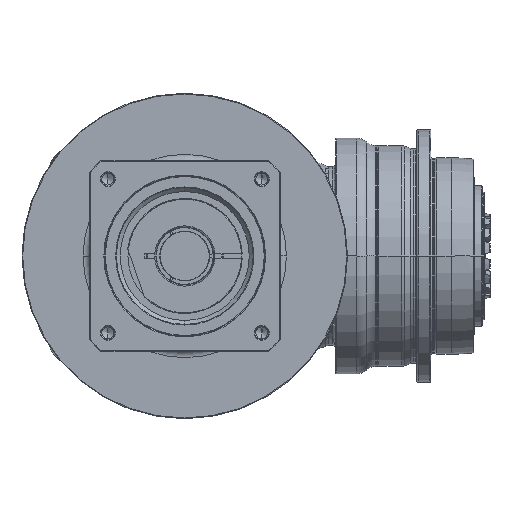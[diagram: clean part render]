
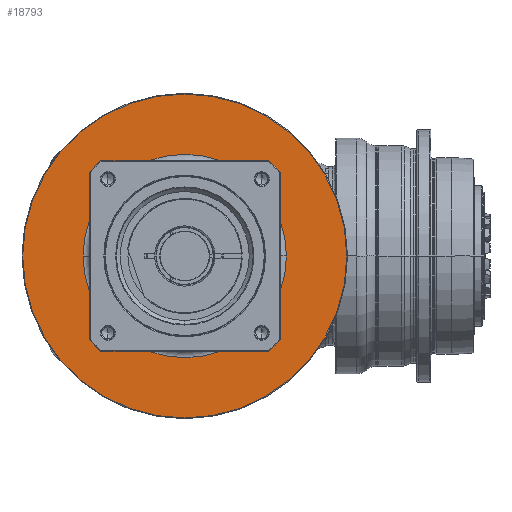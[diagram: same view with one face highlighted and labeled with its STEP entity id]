
A CAD part, front view. The second image highlights one B-rep face of the part: STEP entity #18793.
In plain terms, the highlighted planar face has unit normal (0, -1, 0) as drawn and (1, 0, 0) by its records, which use the part's own axes.
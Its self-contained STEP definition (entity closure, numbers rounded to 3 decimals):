
#18272=CARTESIAN_POINT('',(-7.5,0.,0.));
#18273=DIRECTION('',(-1.,0.,0.));
#18274=DIRECTION('',(0.,-1.,0.));
#18275=AXIS2_PLACEMENT_3D('',#18272,#18273,#18274);
#18277=CARTESIAN_POINT('',(-7.5,0.,0.));
#18278=DIRECTION('',(-1.,0.,0.));
#18279=DIRECTION('',(0.,1.,0.));
#18280=AXIS2_PLACEMENT_3D('',#18277,#18278,#18279);
#18282=CARTESIAN_POINT('',(-7.5,0.,0.));
#18283=DIRECTION('',(-1.,0.,0.));
#18284=DIRECTION('',(0.,-1.,0.));
#18285=AXIS2_PLACEMENT_3D('',#18282,#18283,#18284);
#18287=CARTESIAN_POINT('',(-7.5,0.,0.));
#18288=DIRECTION('',(-1.,0.,0.));
#18289=DIRECTION('',(0.,1.,0.));
#18290=AXIS2_PLACEMENT_3D('',#18287,#18288,#18289);
#18356=CARTESIAN_POINT('',(-7.5,-115.5,0.));
#18357=CARTESIAN_POINT('',(-7.5,115.5,0.));
#18358=VERTEX_POINT('',#18356);
#18359=VERTEX_POINT('',#18357);
#18380=CARTESIAN_POINT('',(-7.5,-72.5,0.));
#18381=CARTESIAN_POINT('',(-7.5,72.5,0.));
#18382=VERTEX_POINT('',#18380);
#18383=VERTEX_POINT('',#18381);
#18778=CARTESIAN_POINT('',(-7.5,0.,0.));
#18779=DIRECTION('',(1.,0.,0.));
#18780=DIRECTION('',(0.,-1.,0.));
#18781=AXIS2_PLACEMENT_3D('',#18778,#18779,#18780);
#18782=PLANE('',#18781);
#18783=ORIENTED_EDGE('',*,*,#18719,.T.);
#18784=ORIENTED_EDGE('',*,*,#18734,.T.);
#18785=EDGE_LOOP('',(#18783,#18784));
#18786=FACE_OUTER_BOUND('',#18785,.F.);
#18788=ORIENTED_EDGE('',*,*,#18787,.F.);
#18790=ORIENTED_EDGE('',*,*,#18789,.F.);
#18791=EDGE_LOOP('',(#18788,#18790));
#18792=FACE_BOUND('',#18791,.F.);
#18793=ADVANCED_FACE('',(#18786,#18792),#18782,.T.);
#18276=CIRCLE('',#18275,72.5);
#18281=CIRCLE('',#18280,72.5);
#18286=CIRCLE('',#18285,115.5);
#18291=CIRCLE('',#18290,115.5);
#18719=EDGE_CURVE('',#18358,#18359,#18286,.T.);
#18734=EDGE_CURVE('',#18359,#18358,#18291,.T.);
#18787=EDGE_CURVE('',#18382,#18383,#18276,.T.);
#18789=EDGE_CURVE('',#18383,#18382,#18281,.T.);
